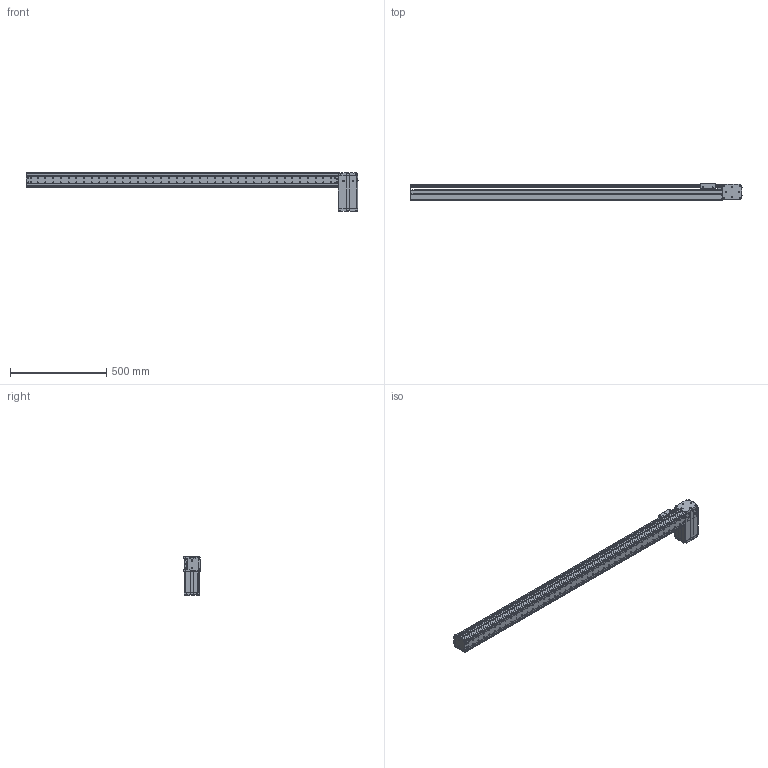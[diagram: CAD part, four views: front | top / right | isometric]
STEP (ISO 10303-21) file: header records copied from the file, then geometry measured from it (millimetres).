
FILE_DESCRIPTION((''),'2;1');
FILE_NAME('BE10_-BL-S_N-E5_IGS_PRT','2017-06-18T',(' '),(''),'PRO/ENGINEER BY PARAMETRIC TECHNOLOGY CORPORATION, 2015030','PRO/ENGINEER BY PARAMETRIC TECHNOLOGY CORPORATION, 2015030','');
FILE_SCHEMA(('CONFIG_CONTROL_DESIGN'));
Products named in the file (1): BE10_-BL-S_N-E5_IGS_PRT
Bounding box: 1720.8 x 85 x 200.22 mm (x, y, z)
Volume: 2351505.2 mm3; surface area: 1601251.9 mm2
Topology: 2 solids, 167 shells, 2235 faces, 6129 edges, 4067 vertices
Faces by surface type: plane 1065, cylinder 1011, cone 103, sphere 28, torus 25, bspline 3
Entity records: 73195 total; most frequent: CARTESIAN_POINT 15046, DIRECTION 12353, ORIENTED_EDGE 11570, EDGE_CURVE 6075, AXIS2_PLACEMENT_3D 4475, VERTEX_POINT 4067, VECTOR 3403, LINE 3403
